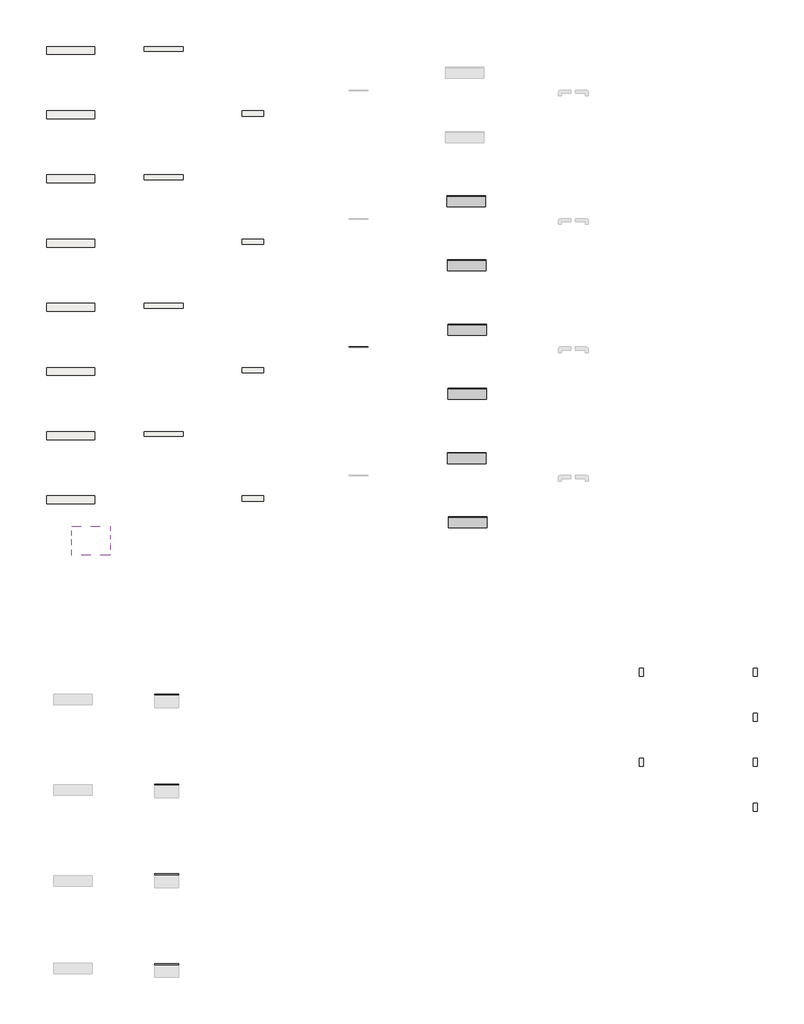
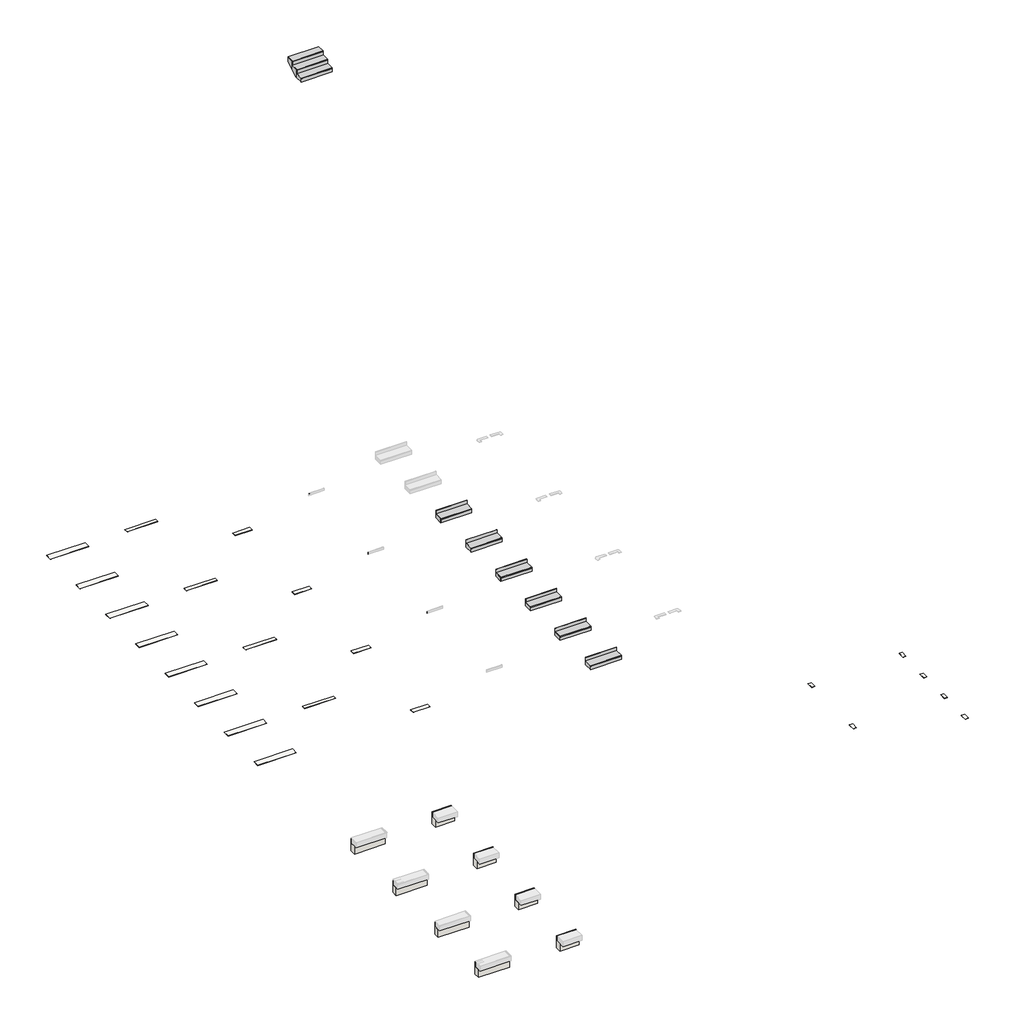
# One storey, part 1 of 2: 22 slabs, 12 walls, 7 stair flights.
"""IFC4 building model written with IfcOpenShell, lengths in millimetres."""

from ifc_helpers import new_model, si_unit, frame, origin, place, context, project, spatial, polyline, outline, extrude, faceted_brep, element, save

model = new_model("IFC4")

# Units and contexts
model_context = context("Model", 3, world=origin())
ifc_project = project(units=[si_unit("LENGTHUNIT", "METRE", prefix="MILLI")], contexts=[model_context])

# Site, building, storey
site = spatial("IfcSite", under=ifc_project)
building = spatial("IfcBuilding", under=site)
storey = spatial("IfcBuildingStorey", under=building, Name="EXAGRES_Serie YOHO_Catálogo", Elevation=5000.0)

# Slabs
placement = place(None, origin())
element("IfcSlab", 1, ObjectType="Exagres_Yoho_Maple_Base_24,5x150_C1_Rect", at=placement, inside=storey, context=model_context, shape_type="SweptSolid", body=[
    extrude(outline(polyline([(271.8218898, 784.4826442), (271.8218898, 537.4826442), (-1230.1781102, 537.4826442), (-1230.1781102, 784.4826442), (271.8218898, 784.4826442)])), frame((0.0, 0.0, 4989.0), z_axis=(0.0, 0.0, 1.0), x_axis=(1.0, 0.0, 0.0)), (0.0, 0.0, 1.0), 11.0),
])
element("IfcSlab", 2, ObjectType="Exagres_Yoho_Maple_Base_24,5x150_C3_Rect", at=placement, inside=storey, context=model_context, shape_type="SweptSolid", body=[
    extrude(outline(polyline([(271.8218898, -1215.5173558), (271.8218898, -1462.5173558), (-1230.1781102, -1462.5173558), (-1230.1781102, -1215.5173558), (271.8218898, -1215.5173558)])), frame((0.0, 0.0, 4989.0), z_axis=(0.0, 0.0, 1.0), x_axis=(1.0, 0.0, 0.0)), (0.0, 0.0, 1.0), 11.0),
])
element("IfcSlab", 3, ObjectType="Exagres_Yoho_Maple_Base_14,5x120_C1_Rect", at=placement, inside=storey, context=model_context, shape_type="SweptSolid", body=[
    extrude(outline(polyline([(3021.8218898, 784.4826442), (3021.8218898, 637.4826442), (1819.8218898, 637.4826442), (1819.8218898, 784.4826442), (3021.8218898, 784.4826442)])), frame((0.0, 0.0, 4989.8), z_axis=(0.0, 0.0, 1.0), x_axis=(1.0, 0.0, 0.0)), (0.0, 0.0, 1.0), 10.2),
])
element("IfcSlab", 4, ObjectType="Exagres_Yoho_Maple_Base_16,25x66,5_C3", at=placement, inside=storey, context=model_context, shape_type="SweptSolid", body=[
    extrude(outline(polyline([(5536.8218898, -1215.5173558), (5536.8218898, -1380.0173558), (4869.8218898, -1380.0173558), (4869.8218898, -1215.5173558), (5536.8218898, -1215.5173558)])), frame((0.0, 0.0, 4990.0), z_axis=(0.0, 0.0, 1.0), x_axis=(1.0, 0.0, 0.0)), (0.0, 0.0, 1.0), 10.0),
])
element("IfcSlab", 5, ObjectType="Exagres_Yoho_Natural_Base_24,5x150_C1_Rect", at=placement, inside=storey, context=model_context, shape_type="SweptSolid", body=[
    extrude(outline(polyline([(271.8218898, -3215.5173558), (271.8218898, -3462.5173558), (-1230.1781102, -3462.5173558), (-1230.1781102, -3215.5173558), (271.8218898, -3215.5173558)])), frame((0.0, 0.0, 4989.0), z_axis=(0.0, 0.0, 1.0), x_axis=(1.0, 0.0, 0.0)), (0.0, 0.0, 1.0), 11.0),
])
element("IfcSlab", 6, ObjectType="Exagres_Yoho_Natural_Base_24,5x150_C3_Rect", at=placement, inside=storey, context=model_context, shape_type="SweptSolid", body=[
    extrude(outline(polyline([(271.8218898, -5215.5173558), (271.8218898, -5462.5173558), (-1230.1781102, -5462.5173558), (-1230.1781102, -5215.5173558), (271.8218898, -5215.5173558)])), frame((0.0, 0.0, 4989.0), z_axis=(0.0, 0.0, 1.0), x_axis=(1.0, 0.0, 0.0)), (0.0, 0.0, 1.0), 11.0),
])
element("IfcSlab", 7, ObjectType="Exagres_Yoho_Natural_Base_14,5x120_C1_Rect", at=placement, inside=storey, context=model_context, shape_type="SweptSolid", body=[
    extrude(outline(polyline([(3021.8218898, -3215.5173558), (3021.8218898, -3362.5173558), (1819.8218898, -3362.5173558), (1819.8218898, -3215.5173558), (3021.8218898, -3215.5173558)])), frame((0.0, 0.0, 4989.8), z_axis=(0.0, 0.0, 1.0), x_axis=(1.0, 0.0, 0.0)), (0.0, 0.0, 1.0), 10.2),
])
element("IfcSlab", 8, ObjectType="Exagres_Yoho_Natural_Base_16,25x66,5_C3", at=placement, inside=storey, context=model_context, shape_type="SweptSolid", body=[
    extrude(outline(polyline([(5536.8218898, -5215.5173558), (5536.8218898, -5380.0173558), (4869.8218898, -5380.0173558), (4869.8218898, -5215.5173558), (5536.8218898, -5215.5173558)])), frame((0.0, 0.0, 4990.0), z_axis=(0.0, 0.0, 1.0), x_axis=(1.0, 0.0, 0.0)), (0.0, 0.0, 1.0), 10.0),
])
element("IfcSlab", 9, ObjectType="Exagres_Yoho_Oak_Base_24,5x150_C1_Rect", at=placement, inside=storey, context=model_context, shape_type="SweptSolid", body=[
    extrude(outline(polyline([(271.8218898, -7215.5173558), (271.8218898, -7462.5173558), (-1230.1781102, -7462.5173558), (-1230.1781102, -7215.5173558), (271.8218898, -7215.5173558)])), frame((0.0, 0.0, 4989.0), z_axis=(0.0, 0.0, 1.0), x_axis=(1.0, 0.0, 0.0)), (0.0, 0.0, 1.0), 11.0),
])
element("IfcSlab", 10, ObjectType="Exagres_Yoho_Oak_Base_24,5x150_C3_Rect", at=placement, inside=storey, context=model_context, shape_type="SweptSolid", body=[
    extrude(outline(polyline([(271.8218898, -9215.5173558), (271.8218898, -9462.5173558), (-1230.1781102, -9462.5173558), (-1230.1781102, -9215.5173558), (271.8218898, -9215.5173558)])), frame((0.0, 0.0, 4989.0), z_axis=(0.0, 0.0, 1.0), x_axis=(1.0, 0.0, 0.0)), (0.0, 0.0, 1.0), 11.0),
])
element("IfcSlab", 11, ObjectType="Exagres_Yoho_Oak_Base_14,5x120_C1_Rect", at=placement, inside=storey, context=model_context, shape_type="SweptSolid", body=[
    extrude(outline(polyline([(3021.8218898, -7215.5173558), (3021.8218898, -7362.5173558), (1819.8218898, -7362.5173558), (1819.8218898, -7215.5173558), (3021.8218898, -7215.5173558)])), frame((0.0, 0.0, 4989.8), z_axis=(0.0, 0.0, 1.0), x_axis=(1.0, 0.0, 0.0)), (0.0, 0.0, 1.0), 10.2),
])
element("IfcSlab", 12, ObjectType="Exagres_Yoho_Oak_Base_16,25x66,5_C3", at=placement, inside=storey, context=model_context, shape_type="SweptSolid", body=[
    extrude(outline(polyline([(5536.8218898, -9215.5173558), (5536.8218898, -9380.0173558), (4869.8218898, -9380.0173558), (4869.8218898, -9215.5173558), (5536.8218898, -9215.5173558)])), frame((0.0, 0.0, 4990.0), z_axis=(0.0, 0.0, 1.0), x_axis=(1.0, 0.0, 0.0)), (0.0, 0.0, 1.0), 10.0),
])
element("IfcSlab", 13, ObjectType="Exagres_Yoho_Teca_Base_24,5x150_C1_Rect", at=placement, inside=storey, context=model_context, shape_type="SweptSolid", body=[
    extrude(outline(polyline([(271.8218898, -11215.5173558), (271.8218898, -11462.5173558), (-1230.1781102, -11462.5173558), (-1230.1781102, -11215.5173558), (271.8218898, -11215.5173558)])), frame((0.0, 0.0, 4989.0), z_axis=(0.0, 0.0, 1.0), x_axis=(1.0, 0.0, 0.0)), (0.0, 0.0, 1.0), 11.0),
])
element("IfcSlab", 14, ObjectType="Exagres_Yoho_Teca_Base_24,5x150_C3_Rect", at=placement, inside=storey, context=model_context, shape_type="SweptSolid", body=[
    extrude(outline(polyline([(271.8218898, -13215.5173558), (271.8218898, -13462.5173558), (-1230.1781102, -13462.5173558), (-1230.1781102, -13215.5173558), (271.8218898, -13215.5173558)])), frame((0.0, 0.0, 4989.0), z_axis=(0.0, 0.0, 1.0), x_axis=(1.0, 0.0, 0.0)), (0.0, 0.0, 1.0), 11.0),
])
element("IfcSlab", 15, ObjectType="Exagres_Yoho_Teca_Base_14,5x120_C1_Rect", at=placement, inside=storey, context=model_context, shape_type="SweptSolid", body=[
    extrude(outline(polyline([(3021.8218898, -11215.5173558), (3021.8218898, -11362.5173558), (1819.8218898, -11362.5173558), (1819.8218898, -11215.5173558), (3021.8218898, -11215.5173558)])), frame((0.0, 0.0, 4989.8), z_axis=(0.0, 0.0, 1.0), x_axis=(1.0, 0.0, 0.0)), (0.0, 0.0, 1.0), 10.2),
])
element("IfcSlab", 16, ObjectType="Exagres_Yoho_Teca_Base_16,25x66,5_C3", at=placement, inside=storey, context=model_context, shape_type="SweptSolid", body=[
    extrude(outline(polyline([(5536.8218898, -13215.5173558), (5536.8218898, -13380.0173558), (4869.8218898, -13380.0173558), (4869.8218898, -13215.5173558), (5536.8218898, -13215.5173558)])), frame((0.0, 0.0, 4990.0), z_axis=(0.0, 0.0, 1.0), x_axis=(1.0, 0.0, 0.0)), (0.0, 0.0, 1.0), 10.0),
])
element("IfcSlab", 17, ObjectType="Exagres_Piscina_Blanco_Piscina_12x24,5_C1", at=placement, inside=storey, context=model_context, shape_type="SweptSolid", body=[
    extrude(outline(polyline([(17374.0707994, -18590.852278), (17374.0707994, -18837.852278), (17252.0707994, -18837.852278), (17252.0707994, -18590.852278), (17374.0707994, -18590.852278)])), frame((0.0, 0.0, 4991.0), z_axis=(0.0, 0.0, 1.0), x_axis=(1.0, 0.0, 0.0)), (0.0, 0.0, 1.0), 9.0),
])
element("IfcSlab", 18, ObjectType="Exagres_Piscina_Blanco_Piscina_12x24,5_C3", at=placement, inside=storey, context=model_context, shape_type="SweptSolid", body=[
    extrude(outline(polyline([(20927.0707994, -19990.852278), (20927.0707994, -20240.852278), (20802.0707994, -20240.852278), (20802.0707994, -19990.852278), (20927.0707994, -19990.852278)])), frame((0.0, 0.0, 4991.0), z_axis=(0.0, 0.0, 1.0), x_axis=(1.0, 0.0, 0.0)), (0.0, 0.0, 1.0), 9.0),
])
element("IfcSlab", 19, ObjectType="Exagres_Piscina_Azul_Piscina_12x24,5_C1", at=placement, inside=storey, context=model_context, shape_type="SweptSolid", body=[
    extrude(outline(polyline([(17374.0707994, -21390.852278), (17374.0707994, -21637.852278), (17252.0707994, -21637.852278), (17252.0707994, -21390.852278), (17374.0707994, -21390.852278)])), frame((0.0, 0.0, 4991.0), z_axis=(0.0, 0.0, 1.0), x_axis=(1.0, 0.0, 0.0)), (0.0, 0.0, 1.0), 9.0),
])
element("IfcSlab", 20, ObjectType="Exagres_Piscina_Azul_Piscina_12x24,5_C3", at=placement, inside=storey, context=model_context, shape_type="SweptSolid", body=[
    extrude(outline(polyline([(20927.0707994, -22790.852278), (20927.0707994, -23040.852278), (20802.0707994, -23040.852278), (20802.0707994, -22790.852278), (20927.0707994, -22790.852278)])), frame((0.0, 0.0, 4991.0), z_axis=(0.0, 0.0, 1.0), x_axis=(1.0, 0.0, 0.0)), (0.0, 0.0, 1.0), 9.0),
])
element("IfcSlab", 21, ObjectType="Exagres_Piscina_Blanco_Piscina_12x24,5_C1", at=placement, inside=storey, context=model_context, shape_type="SweptSolid", body=[
    extrude(outline(polyline([(20924.0707994, -18590.852278), (20924.0707994, -18837.852278), (20802.0707994, -18837.852278), (20802.0707994, -18590.852278), (20924.0707994, -18590.852278)])), frame((0.0, 0.0, 4991.0), z_axis=(0.0, 0.0, 1.0), x_axis=(1.0, 0.0, 0.0)), (0.0, 0.0, 1.0), 9.0),
])
element("IfcSlab", 22, ObjectType="Exagres_Piscina_Azul_Piscina_12x24,5_C1", at=placement, inside=storey, context=model_context, shape_type="SweptSolid", body=[
    extrude(outline(polyline([(20924.0707994, -21390.852278), (20924.0707994, -21637.852278), (20802.0707994, -21637.852278), (20802.0707994, -21390.852278), (20924.0707994, -21390.852278)])), frame((0.0, 0.0, 4991.0), z_axis=(0.0, 0.0, 1.0), x_axis=(1.0, 0.0, 0.0)), (0.0, 0.0, 1.0), 9.0),
])

# Stair flights
element("IfcStairFlight", 23, ObjectType="EXAGRES_Recto - Yoho Oak C1", at=placement, inside=storey, context=model_context, shape_type="SolidModel", body=[
    faceted_brep([(-451.9029047, -14746.6587674, 33972.3684211), (-451.9029047, -15046.6587674, 33972.3684211), (748.0970953, -15046.6587674, 33972.3684211), (748.0970953, -14746.6587674, 33972.3684211), (-451.9029047, -14746.6587674, 33820.0), (-451.9029047, -15046.6587674, 33820.0), (748.0970953, -15046.6587674, 33820.0), (748.0970953, -14746.6587674, 33820.0), (-451.9029047, -14446.6587674, 34139.7368421), (-451.9029047, -14746.6587674, 34139.7368421), (748.0970953, -14746.6587674, 34139.7368421), (748.0970953, -14446.6587674, 34139.7368421), (-451.9029047, -14446.6587674, 33956.5213642), (-451.9029047, -14691.3668729, 33820.0), (748.0970953, -14691.3668729, 33820.0), (748.0970953, -14446.6587674, 33956.5213642), (-451.9029047, -14161.6587674, 34115.5213642), (748.0970953, -14161.6587674, 34115.5213642), (-451.9029047, -14161.6587674, 34307.1052632), (-451.9029047, -14446.6587674, 34307.1052632), (748.0970953, -14446.6587674, 34307.1052632), (748.0970953, -14161.6587674, 34307.1052632)], [[[0, 1, 2, 3]], [[1, 0, 4, 5]], [[2, 1, 5, 6]], [[3, 2, 6, 7]], [[8, 9, 10, 11]], [[4, 0, 9, 8, 12, 13]], [[0, 3, 10, 9]], [[3, 7, 14, 15, 11, 10]], [[5, 4, 13, 14, 7, 6]], [[14, 13, 12, 16, 17, 15]], [[18, 19, 20, 21]], [[19, 18, 16, 12, 8]], [[8, 11, 20, 19]], [[21, 20, 11, 15, 17]], [[18, 21, 17, 16]]]),
    extrude(outline(polyline([(-14746.6587674, 33972.3684211), (-15043.7492185, 33972.3684211), (-15043.7492185, 33975.3684211), (-15048.6587674, 33975.3684211), (-15048.6587674, 33968.3684211), (-15049.6587674, 33968.3684211), (-15049.6587674, 33962.3684211), (-15048.6587674, 33962.3684211), (-15048.6587674, 33954.3684211), (-15061.6587674, 33954.3684211), (-15061.6587674, 33987.3684211), (-14746.6587674, 33987.3684211), (-14746.6587674, 33972.3684211)])), frame((-451.9029047, 0.0, 0.0), z_axis=(1.0, 0.0, 0.0), x_axis=(0.0, 1.0, 0.0)), (0.0, 0.0, 1.0), 1200.0),
    extrude(outline(polyline([(748.0970953, -15046.6587674), (748.0970953, -15061.6587674), (-451.9029047, -15061.6587674), (-451.9029047, -15046.6587674), (748.0970953, -15046.6587674)])), frame((0.0, 0.0, 33820.0), z_axis=(0.0, 0.0, 1.0), x_axis=(1.0, 0.0, 0.0)), (0.0, 0.0, 1.0), 134.3684211),
    extrude(outline(polyline([(748.0970953, -14746.6587674), (748.0970953, -14761.6587674), (-451.9029047, -14761.6587674), (-451.9029047, -14746.6587674), (748.0970953, -14746.6587674)])), frame((0.0, 0.0, 33987.3684211), z_axis=(0.0, 0.0, 1.0), x_axis=(1.0, 0.0, 0.0)), (0.0, 0.0, 1.0), 134.3684211),
    extrude(outline(polyline([(-14446.6587674, 34139.7368421), (-14743.7492185, 34139.7368421), (-14743.7492185, 34142.7368421), (-14748.6587674, 34142.7368421), (-14748.6587674, 34135.7368421), (-14749.6587674, 34135.7368421), (-14749.6587674, 34129.7368421), (-14748.6587674, 34129.7368421), (-14748.6587674, 34121.7368421), (-14761.6587674, 34121.7368421), (-14761.6587674, 34154.7368421), (-14446.6587674, 34154.7368421), (-14446.6587674, 34139.7368421)])), frame((-451.9029047, 0.0, 0.0), z_axis=(1.0, 0.0, 0.0), x_axis=(0.0, 1.0, 0.0)), (0.0, 0.0, 1.0), 1200.0),
    extrude(outline(polyline([(748.0970953, -14446.6587674), (748.0970953, -14461.6587674), (-451.9029047, -14461.6587674), (-451.9029047, -14446.6587674), (748.0970953, -14446.6587674)])), frame((0.0, 0.0, 34154.7368421), z_axis=(0.0, 0.0, 1.0), x_axis=(1.0, 0.0, 0.0)), (0.0, 0.0, 1.0), 134.3684211),
    extrude(outline(polyline([(-14161.6587674, 34307.1052632), (-14443.7492185, 34307.1052632), (-14443.7492185, 34310.1052632), (-14448.6587674, 34310.1052632), (-14448.6587674, 34303.1052632), (-14449.6587674, 34303.1052632), (-14449.6587674, 34297.1052632), (-14448.6587674, 34297.1052632), (-14448.6587674, 34289.1052632), (-14461.6587674, 34289.1052632), (-14461.6587674, 34322.1052632), (-14161.6587674, 34322.1052632), (-14161.6587674, 34307.1052632)])), frame((-451.9029047, 0.0, 0.0), z_axis=(1.0, 0.0, 0.0), x_axis=(0.0, 1.0, 0.0)), (0.0, 0.0, 1.0), 1200.0),
])
element("IfcStairFlight", 24, ObjectType="EXAGRES_Recto - Yoho Natural C3", at=placement, inside=storey, context=model_context, shape_type="SweptSolid", body=[
    extrude(outline(polyline([(11274.6267082, -6192.5173558), (11274.6267082, -5862.5173558), (12474.6267082, -5862.5173558), (12474.6267082, -6192.5173558), (11274.6267082, -6192.5173558)])), frame((0.0, 0.0, 5000.0), z_axis=(0.0, 0.0, 1.0), x_axis=(1.0, 0.0, 0.0)), (0.0, 0.0, 1.0), 151.6666667),
    extrude(outline(polyline([(-5862.5173558, 5151.6666667), (-6189.6078069, 5151.6666667), (-6189.6078069, 5154.6666667), (-6194.5173558, 5154.6666667), (-6194.5173558, 5147.6666667), (-6195.5173558, 5147.6666667), (-6195.5173558, 5141.6666667), (-6194.5173558, 5141.6666667), (-6194.5173558, 5133.6666667), (-6207.5173558, 5133.6666667), (-6207.5173558, 5166.6666667), (-5862.5173558, 5166.6666667), (-5862.5173558, 5151.6666667)])), frame((11274.6267082, 0.0, 0.0), z_axis=(1.0, 0.0, 0.0), x_axis=(0.0, 1.0, 0.0)), (0.0, 0.0, 1.0), 1200.0),
    extrude(outline(polyline([(12474.6267082, -6192.5173558), (12474.6267082, -6207.5173558), (11274.6267082, -6207.5173558), (11274.6267082, -6192.5173558), (12474.6267082, -6192.5173558)])), frame((0.0, 0.0, 5000.0), z_axis=(0.0, 0.0, 1.0), x_axis=(1.0, 0.0, 0.0)), (0.0, 0.0, 1.0), 133.6666667),
    extrude(outline(polyline([(12474.6267082, -5862.5173558), (12474.6267082, -5877.5173558), (11274.6267082, -5877.5173558), (11274.6267082, -5862.5173558), (12474.6267082, -5862.5173558)])), frame((0.0, 0.0, 5166.6666667), z_axis=(0.0, 0.0, 1.0), x_axis=(1.0, 0.0, 0.0)), (0.0, 0.0, 1.0), 133.6666667),
])
element("IfcStairFlight", 25, ObjectType="EXAGRES_Recto - Yoho Oak C3", at=placement, inside=storey, context=model_context, shape_type="SweptSolid", body=[
    extrude(outline(polyline([(11285.112331, -10192.5173558), (11285.112331, -9862.5173558), (12485.112331, -9862.5173558), (12485.112331, -10192.5173558), (11285.112331, -10192.5173558)])), frame((0.0, 0.0, 5000.0), z_axis=(0.0, 0.0, 1.0), x_axis=(1.0, 0.0, 0.0)), (0.0, 0.0, 1.0), 151.6666667),
    extrude(outline(polyline([(-9862.5173558, 5151.6666667), (-10189.6078069, 5151.6666667), (-10189.6078069, 5154.6666667), (-10194.5173558, 5154.6666667), (-10194.5173558, 5147.6666667), (-10195.5173558, 5147.6666667), (-10195.5173558, 5141.6666667), (-10194.5173558, 5141.6666667), (-10194.5173558, 5133.6666667), (-10207.5173558, 5133.6666667), (-10207.5173558, 5166.6666667), (-9862.5173558, 5166.6666667), (-9862.5173558, 5151.6666667)])), frame((11285.112331, 0.0, 0.0), z_axis=(1.0, 0.0, 0.0), x_axis=(0.0, 1.0, 0.0)), (0.0, 0.0, 1.0), 1200.0),
    extrude(outline(polyline([(12485.112331, -10192.5173558), (12485.112331, -10207.5173558), (11285.112331, -10207.5173558), (11285.112331, -10192.5173558), (12485.112331, -10192.5173558)])), frame((0.0, 0.0, 5000.0), z_axis=(0.0, 0.0, 1.0), x_axis=(1.0, 0.0, 0.0)), (0.0, 0.0, 1.0), 133.6666667),
    extrude(outline(polyline([(12485.112331, -9862.5173558), (12485.112331, -9877.5173558), (11285.112331, -9877.5173558), (11285.112331, -9862.5173558), (12485.112331, -9862.5173558)])), frame((0.0, 0.0, 5166.6666667), z_axis=(0.0, 0.0, 1.0), x_axis=(1.0, 0.0, 0.0)), (0.0, 0.0, 1.0), 133.6666667),
])
element("IfcStairFlight", 26, ObjectType="EXAGRES_Recto - Yoho Teca C3", at=placement, inside=storey, context=model_context, shape_type="SweptSolid", body=[
    extrude(outline(polyline([(11306.0835768, -14192.5173558), (11306.0835768, -13862.5173558), (12506.0835768, -13862.5173558), (12506.0835768, -14192.5173558), (11306.0835768, -14192.5173558)])), frame((0.0, 0.0, 5000.0), z_axis=(0.0, 0.0, 1.0), x_axis=(1.0, 0.0, 0.0)), (0.0, 0.0, 1.0), 151.6666667),
    extrude(outline(polyline([(-13862.5173558, 5151.6666667), (-14189.6078069, 5151.6666667), (-14189.6078069, 5154.6666667), (-14194.5173558, 5154.6666667), (-14194.5173558, 5147.6666667), (-14195.5173558, 5147.6666667), (-14195.5173558, 5141.6666667), (-14194.5173558, 5141.6666667), (-14194.5173558, 5133.6666667), (-14207.5173558, 5133.6666667), (-14207.5173558, 5166.6666667), (-13862.5173558, 5166.6666667), (-13862.5173558, 5151.6666667)])), frame((11306.0835768, 0.0, 0.0), z_axis=(1.0, 0.0, 0.0), x_axis=(0.0, 1.0, 0.0)), (0.0, 0.0, 1.0), 1200.0),
    extrude(outline(polyline([(12506.0835768, -14192.5173558), (12506.0835768, -14207.5173558), (11306.0835768, -14207.5173558), (11306.0835768, -14192.5173558), (12506.0835768, -14192.5173558)])), frame((0.0, 0.0, 5000.0), z_axis=(0.0, 0.0, 1.0), x_axis=(1.0, 0.0, 0.0)), (0.0, 0.0, 1.0), 133.6666667),
    extrude(outline(polyline([(12506.0835768, -13862.5173558), (12506.0835768, -13877.5173558), (11306.0835768, -13877.5173558), (11306.0835768, -13862.5173558), (12506.0835768, -13862.5173558)])), frame((0.0, 0.0, 5166.6666667), z_axis=(0.0, 0.0, 1.0), x_axis=(1.0, 0.0, 0.0)), (0.0, 0.0, 1.0), 133.6666667),
])
element("IfcStairFlight", 27, ObjectType="EXAGRES_Recto - Yoho Natural C1", at=placement, inside=storey, context=model_context, shape_type="SweptSolid", body=[
    extrude(outline(polyline([(11253.0707994, -4192.5173558), (11253.0707994, -3862.5173558), (12453.0707994, -3862.5173558), (12453.0707994, -4192.5173558), (11253.0707994, -4192.5173558)])), frame((0.0, 0.0, 5000.0), z_axis=(0.0, 0.0, 1.0), x_axis=(1.0, 0.0, 0.0)), (0.0, 0.0, 1.0), 151.6666667),
    extrude(outline(polyline([(-3862.5173558, 5151.6666667), (-4189.6078069, 5151.6666667), (-4189.6078069, 5154.6666667), (-4194.5173558, 5154.6666667), (-4194.5173558, 5147.6666667), (-4195.5173558, 5147.6666667), (-4195.5173558, 5141.6666667), (-4194.5173558, 5141.6666667), (-4194.5173558, 5133.6666667), (-4207.5173558, 5133.6666667), (-4207.5173558, 5166.6666667), (-3862.5173558, 5166.6666667), (-3862.5173558, 5151.6666667)])), frame((11253.0707994, 0.0, 0.0), z_axis=(1.0, 0.0, 0.0), x_axis=(0.0, 1.0, 0.0)), (0.0, 0.0, 1.0), 1200.0),
    extrude(outline(polyline([(12453.0707994, -4192.5173558), (12453.0707994, -4207.5173558), (11253.0707994, -4207.5173558), (11253.0707994, -4192.5173558), (12453.0707994, -4192.5173558)])), frame((0.0, 0.0, 5000.0), z_axis=(0.0, 0.0, 1.0), x_axis=(1.0, 0.0, 0.0)), (0.0, 0.0, 1.0), 133.6666667),
    extrude(outline(polyline([(12453.0707994, -3862.5173558), (12453.0707994, -3877.5173558), (11253.0707994, -3877.5173558), (11253.0707994, -3862.5173558), (12453.0707994, -3862.5173558)])), frame((0.0, 0.0, 5166.6666667), z_axis=(0.0, 0.0, 1.0), x_axis=(1.0, 0.0, 0.0)), (0.0, 0.0, 1.0), 133.6666667),
])
element("IfcStairFlight", 28, ObjectType="EXAGRES_Recto - Yoho Oak C1", at=placement, inside=storey, context=model_context, shape_type="SweptSolid", body=[
    extrude(outline(polyline([(11283.5166928, -8192.5173558), (11283.5166928, -7862.5173558), (12483.5166928, -7862.5173558), (12483.5166928, -8192.5173558), (11283.5166928, -8192.5173558)])), frame((0.0, 0.0, 5000.0), z_axis=(0.0, 0.0, 1.0), x_axis=(1.0, 0.0, 0.0)), (0.0, 0.0, 1.0), 151.6666667),
    extrude(outline(polyline([(-7862.5173558, 5151.6666667), (-8189.6078069, 5151.6666667), (-8189.6078069, 5154.6666667), (-8194.5173558, 5154.6666667), (-8194.5173558, 5147.6666667), (-8195.5173558, 5147.6666667), (-8195.5173558, 5141.6666667), (-8194.5173558, 5141.6666667), (-8194.5173558, 5133.6666667), (-8207.5173558, 5133.6666667), (-8207.5173558, 5166.6666667), (-7862.5173558, 5166.6666667), (-7862.5173558, 5151.6666667)])), frame((11283.5166928, 0.0, 0.0), z_axis=(1.0, 0.0, 0.0), x_axis=(0.0, 1.0, 0.0)), (0.0, 0.0, 1.0), 1200.0),
    extrude(outline(polyline([(12483.5166928, -8192.5173558), (12483.5166928, -8207.5173558), (11283.5166928, -8207.5173558), (11283.5166928, -8192.5173558), (12483.5166928, -8192.5173558)])), frame((0.0, 0.0, 5000.0), z_axis=(0.0, 0.0, 1.0), x_axis=(1.0, 0.0, 0.0)), (0.0, 0.0, 1.0), 133.6666667),
    extrude(outline(polyline([(12483.5166928, -7862.5173558), (12483.5166928, -7877.5173558), (11283.5166928, -7877.5173558), (11283.5166928, -7862.5173558), (12483.5166928, -7862.5173558)])), frame((0.0, 0.0, 5166.6666667), z_axis=(0.0, 0.0, 1.0), x_axis=(1.0, 0.0, 0.0)), (0.0, 0.0, 1.0), 133.6666667),
])
element("IfcStairFlight", 29, ObjectType="EXAGRES_Recto - Yoho Teca C1", at=placement, inside=storey, context=model_context, shape_type="SweptSolid", body=[
    extrude(outline(polyline([(11275.429458, -12192.5173558), (11275.429458, -11862.5173558), (12475.429458, -11862.5173558), (12475.429458, -12192.5173558), (11275.429458, -12192.5173558)])), frame((0.0, 0.0, 5000.0), z_axis=(0.0, 0.0, 1.0), x_axis=(1.0, 0.0, 0.0)), (0.0, 0.0, 1.0), 151.6666667),
    extrude(outline(polyline([(-11862.5173558, 5151.6666667), (-12189.6078069, 5151.6666667), (-12189.6078069, 5154.6666667), (-12194.5173558, 5154.6666667), (-12194.5173558, 5147.6666667), (-12195.5173558, 5147.6666667), (-12195.5173558, 5141.6666667), (-12194.5173558, 5141.6666667), (-12194.5173558, 5133.6666667), (-12207.5173558, 5133.6666667), (-12207.5173558, 5166.6666667), (-11862.5173558, 5166.6666667), (-11862.5173558, 5151.6666667)])), frame((11275.429458, 0.0, 0.0), z_axis=(1.0, 0.0, 0.0), x_axis=(0.0, 1.0, 0.0)), (0.0, 0.0, 1.0), 1200.0),
    extrude(outline(polyline([(12475.429458, -12192.5173558), (12475.429458, -12207.5173558), (11275.429458, -12207.5173558), (11275.429458, -12192.5173558), (12475.429458, -12192.5173558)])), frame((0.0, 0.0, 5000.0), z_axis=(0.0, 0.0, 1.0), x_axis=(1.0, 0.0, 0.0)), (0.0, 0.0, 1.0), 133.6666667),
    extrude(outline(polyline([(12475.429458, -11862.5173558), (12475.429458, -11877.5173558), (11275.429458, -11877.5173558), (11275.429458, -11862.5173558), (12475.429458, -11862.5173558)])), frame((0.0, 0.0, 5166.6666667), z_axis=(0.0, 0.0, 1.0), x_axis=(1.0, 0.0, 0.0)), (0.0, 0.0, 1.0), 133.6666667),
])

# Walls
element("IfcWall", 30, ObjectType="Muro básico:muro", at=placement, inside=storey, context=model_context, shape_type="SweptSolid", body=[
    extrude(outline(polyline([(8793.632671, -576.1098151), (8193.632671, -576.1098151), (8193.632671, -575.1098151), (8793.632671, -575.1098151), (8793.632671, -576.1098151)])), frame((0.0, 0.0, 5000.0), z_axis=(0.0, 0.0, 1.0), x_axis=(1.0, 0.0, 0.0)), (0.0, 0.0, 1.0), 75.0),
])
element("IfcWall", 31, ObjectType="Exagres_Piscina Skimmer - Peldaño 33x120 - Yoho Maple -", at=placement, inside=storey, context=model_context, shape_type="Brep", body=[
    faceted_brep([(-1012.155725, -19615.852278, 5000.0), (189.844275, -19615.852278, 5000.0), (189.844275, -19615.852278, 5318.74), (-1012.155725, -19615.852278, 5318.74), (189.844275, -19390.852278, 5000.0), (-1012.155725, -19390.852278, 5000.0), (-1012.155725, -19390.852278, 5500.0), (189.844275, -19390.852278, 5500.0), (189.844275, -19403.852278, 5500.0), (189.844275, -19405.852278, 5500.0), (189.844275, -19405.852278, 5318.74), (-1012.155725, -19403.852278, 5500.0), (-1012.155725, -19405.852278, 5500.0), (-1012.155725, -19405.852278, 5318.74)], [[[0, 1, 2, 3]], [[4, 5, 6, 7]], [[1, 0, 5, 4]], [[4, 7, 8, 9, 10, 2, 1]], [[7, 6, 11, 12, 9, 8]], [[6, 5, 0, 3, 13, 12, 11]], [[10, 13, 3, 2]], [[13, 10, 9, 12]]]),
])
element("IfcWall", 32, ObjectType="Exagres_Piscina Skimmer - Borde 45x75 - Yoho Maple -", at=placement, inside=storey, context=model_context, shape_type="Brep", body=[
    faceted_brep([(2137.844275, -19615.852278, 5000.0), (2887.844275, -19615.852278, 5000.0), (2887.844275, -19615.852278, 5300.0), (2137.844275, -19615.852278, 5300.0), (2887.844275, -19390.852278, 5000.0), (2137.844275, -19390.852278, 5000.0), (2137.844275, -19390.852278, 5500.0), (2887.844275, -19390.852278, 5500.0), (2887.844275, -19403.0689416, 5500.0), (2887.844275, -19408.2553724, 5500.0), (2887.844275, -19415.852278, 5500.0), (2887.844275, -19415.852278, 5300.0), (2137.844275, -19403.0689416, 5500.0), (2137.844275, -19408.2553724, 5500.0), (2137.844275, -19415.852278, 5500.0), (2137.844275, -19415.852278, 5300.0)], [[[0, 1, 2, 3]], [[4, 5, 6, 7]], [[1, 0, 5, 4]], [[4, 7, 8, 9, 10, 11, 2, 1]], [[7, 6, 12, 13, 14, 10, 9, 8]], [[6, 5, 0, 3, 15, 14, 13, 12]], [[11, 15, 3, 2]], [[15, 11, 10, 14]]]),
])
element("IfcWall", 33, ObjectType="Exagres_Piscina Skimmer - Peldaño 33x120 - Yoho Natural -", at=placement, inside=storey, context=model_context, shape_type="Brep", body=[
    faceted_brep([(-1012.155725, -22440.852278, 5000.0), (189.844275, -22440.852278, 5000.0), (189.844275, -22440.852278, 5318.74), (-1012.155725, -22440.852278, 5318.74), (189.844275, -22215.852278, 5000.0), (-1012.155725, -22215.852278, 5000.0), (-1012.155725, -22215.852278, 5500.0), (189.844275, -22215.852278, 5500.0), (189.844275, -22228.852278, 5500.0), (189.844275, -22230.852278, 5500.0), (189.844275, -22230.852278, 5318.74), (-1012.155725, -22228.852278, 5500.0), (-1012.155725, -22230.852278, 5500.0), (-1012.155725, -22230.852278, 5318.74)], [[[0, 1, 2, 3]], [[4, 5, 6, 7]], [[1, 0, 5, 4]], [[4, 7, 8, 9, 10, 2, 1]], [[7, 6, 11, 12, 9, 8]], [[6, 5, 0, 3, 13, 12, 11]], [[10, 13, 3, 2]], [[13, 10, 9, 12]]]),
])
element("IfcWall", 34, ObjectType="Exagres_Piscina Skimmer - Borde 45x75 - Yoho Natural -", at=placement, inside=storey, context=model_context, shape_type="Brep", body=[
    faceted_brep([(2137.844275, -22415.852278, 5000.0), (2887.844275, -22415.852278, 5000.0), (2887.844275, -22415.852278, 5300.0), (2137.844275, -22415.852278, 5300.0), (2887.844275, -22190.852278, 5000.0), (2137.844275, -22190.852278, 5000.0), (2137.844275, -22190.852278, 5500.0), (2887.844275, -22190.852278, 5500.0), (2887.844275, -22203.0689416, 5500.0), (2887.844275, -22208.2553724, 5500.0), (2887.844275, -22215.852278, 5500.0), (2887.844275, -22215.852278, 5300.0), (2137.844275, -22203.0689416, 5500.0), (2137.844275, -22208.2553724, 5500.0), (2137.844275, -22215.852278, 5500.0), (2137.844275, -22215.852278, 5300.0)], [[[0, 1, 2, 3]], [[4, 5, 6, 7]], [[1, 0, 5, 4]], [[4, 7, 8, 9, 10, 11, 2, 1]], [[7, 6, 12, 13, 14, 10, 9, 8]], [[6, 5, 0, 3, 15, 14, 13, 12]], [[11, 15, 3, 2]], [[15, 11, 10, 14]]]),
])
element("IfcWall", 35, ObjectType="Exagres_Piscina Skimmer - Peldaño 33x120 - Yoho Oak -", at=placement, inside=storey, context=model_context, shape_type="Brep", body=[
    faceted_brep([(-1012.155725, -25265.852278, 5000.0), (189.844275, -25265.852278, 5000.0), (189.844275, -25265.852278, 5318.74), (-1012.155725, -25265.852278, 5318.74), (189.844275, -25040.852278, 5000.0), (-1012.155725, -25040.852278, 5000.0), (-1012.155725, -25040.852278, 5500.0), (189.844275, -25040.852278, 5500.0), (189.844275, -25053.852278, 5500.0), (189.844275, -25055.852278, 5500.0), (189.844275, -25055.852278, 5318.74), (-1012.155725, -25053.852278, 5500.0), (-1012.155725, -25055.852278, 5500.0), (-1012.155725, -25055.852278, 5318.74)], [[[0, 1, 2, 3]], [[4, 5, 6, 7]], [[1, 0, 5, 4]], [[4, 7, 8, 9, 10, 2, 1]], [[7, 6, 11, 12, 9, 8]], [[6, 5, 0, 3, 13, 12, 11]], [[10, 13, 3, 2]], [[13, 10, 9, 12]]]),
])
element("IfcWall", 36, ObjectType="Exagres_Piscina Skimmer - Borde 45x75 - Yoho Oak -", at=placement, inside=storey, context=model_context, shape_type="Brep", body=[
    faceted_brep([(2137.844275, -25215.852278, 5000.0), (2887.844275, -25215.852278, 5000.0), (2887.844275, -25215.852278, 5300.0), (2137.844275, -25215.852278, 5300.0), (2887.844275, -24990.852278, 5000.0), (2137.844275, -24990.852278, 5000.0), (2137.844275, -24990.852278, 5500.0), (2887.844275, -24990.852278, 5500.0), (2887.844275, -25003.0689416, 5500.0), (2887.844275, -25008.2553724, 5500.0), (2887.844275, -25015.852278, 5500.0), (2887.844275, -25015.852278, 5300.0), (2137.844275, -25003.0689416, 5500.0), (2137.844275, -25008.2553724, 5500.0), (2137.844275, -25015.852278, 5500.0), (2137.844275, -25015.852278, 5300.0)], [[[0, 1, 2, 3]], [[4, 5, 6, 7]], [[1, 0, 5, 4]], [[4, 7, 8, 9, 10, 11, 2, 1]], [[7, 6, 12, 13, 14, 10, 9, 8]], [[6, 5, 0, 3, 15, 14, 13, 12]], [[11, 15, 3, 2]], [[15, 11, 10, 14]]]),
])
element("IfcWall", 37, ObjectType="Exagres_Piscina Skimmer - Peldaño 33x120 - Yoho Teca -", at=placement, inside=storey, context=model_context, shape_type="Brep", body=[
    faceted_brep([(-1012.155725, -27990.852278, 5000.0), (189.844275, -27990.852278, 5000.0), (189.844275, -27990.852278, 5318.74), (-1012.155725, -27990.852278, 5318.74), (189.844275, -27765.852278, 5000.0), (-1012.155725, -27765.852278, 5000.0), (-1012.155725, -27765.852278, 5500.0), (189.844275, -27765.852278, 5500.0), (189.844275, -27778.852278, 5500.0), (189.844275, -27780.852278, 5500.0), (189.844275, -27780.852278, 5318.74), (-1012.155725, -27778.852278, 5500.0), (-1012.155725, -27780.852278, 5500.0), (-1012.155725, -27780.852278, 5318.74)], [[[0, 1, 2, 3]], [[4, 5, 6, 7]], [[1, 0, 5, 4]], [[4, 7, 8, 9, 10, 2, 1]], [[7, 6, 11, 12, 9, 8]], [[6, 5, 0, 3, 13, 12, 11]], [[10, 13, 3, 2]], [[13, 10, 9, 12]]]),
])
element("IfcWall", 38, ObjectType="Exagres_Piscina Skimmer - Borde 45x75 - Yoho Teca -", at=placement, inside=storey, context=model_context, shape_type="Brep", body=[
    faceted_brep([(2137.844275, -28015.852278, 5000.0), (2887.844275, -28015.852278, 5000.0), (2887.844275, -28015.852278, 5300.0), (2137.844275, -28015.852278, 5300.0), (2887.844275, -27790.852278, 5000.0), (2137.844275, -27790.852278, 5000.0), (2137.844275, -27790.852278, 5500.0), (2887.844275, -27790.852278, 5500.0), (2887.844275, -27803.0689416, 5500.0), (2887.844275, -27808.2553724, 5500.0), (2887.844275, -27815.852278, 5500.0), (2887.844275, -27815.852278, 5300.0), (2137.844275, -27803.0689416, 5500.0), (2137.844275, -27808.2553724, 5500.0), (2137.844275, -27815.852278, 5500.0), (2137.844275, -27815.852278, 5300.0)], [[[0, 1, 2, 3]], [[4, 5, 6, 7]], [[1, 0, 5, 4]], [[4, 7, 8, 9, 10, 11, 2, 1]], [[7, 6, 12, 13, 14, 10, 9, 8]], [[6, 5, 0, 3, 15, 14, 13, 12]], [[11, 15, 3, 2]], [[15, 11, 10, 14]]]),
])
element("IfcWall", 39, ObjectType="Muro básico:muro", at=placement, inside=storey, context=model_context, shape_type="SweptSolid", body=[
    extrude(outline(polyline([(8793.632671, -4576.1098151), (8193.632671, -4576.1098151), (8193.632671, -4575.1098151), (8793.632671, -4575.1098151), (8793.632671, -4576.1098151)])), frame((0.0, 0.0, 5000.0), z_axis=(0.0, 0.0, 1.0), x_axis=(1.0, 0.0, 0.0)), (0.0, 0.0, 1.0), 75.0),
])
element("IfcWall", 40, ObjectType="Muro básico:muro", at=placement, inside=storey, context=model_context, shape_type="SweptSolid", body=[
    extrude(outline(polyline([(8793.632671, -8576.1098151), (8193.632671, -8576.1098151), (8193.632671, -8575.1098151), (8793.632671, -8575.1098151), (8793.632671, -8576.1098151)])), frame((0.0, 0.0, 5000.0), z_axis=(0.0, 0.0, 1.0), x_axis=(1.0, 0.0, 0.0)), (0.0, 0.0, 1.0), 75.0),
])
element("IfcWall", 41, ObjectType="Muro básico:muro", at=placement, inside=storey, context=model_context, shape_type="SweptSolid", body=[
    extrude(outline(polyline([(8793.632671, -12576.1098151), (8193.632671, -12576.1098151), (8193.632671, -12575.1098151), (8793.632671, -12575.1098151), (8793.632671, -12576.1098151)])), frame((0.0, 0.0, 5000.0), z_axis=(0.0, 0.0, 1.0), x_axis=(1.0, 0.0, 0.0)), (0.0, 0.0, 1.0), 75.0),
])

save(model, "model.ifc")
